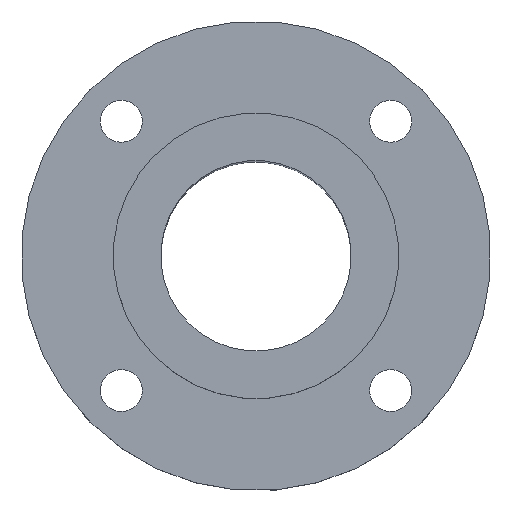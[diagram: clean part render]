
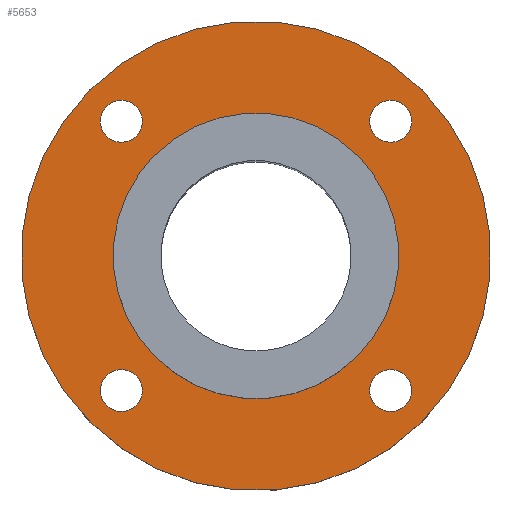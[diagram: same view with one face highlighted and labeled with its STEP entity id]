
A CAD part, top view. The second image highlights one B-rep face of the part: STEP entity #5653.
In plain terms, the highlighted planar face has unit normal (0, 0, 1).
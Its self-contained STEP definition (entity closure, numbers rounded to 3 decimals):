
#114=CIRCLE('',#6012,22.5);
#118=CIRCLE('',#6020,37.);
#119=CIRCLE('',#6022,3.3);
#120=CIRCLE('',#6023,3.3);
#121=CIRCLE('',#6024,3.3);
#122=CIRCLE('',#6025,3.3);
#523=ORIENTED_EDGE('',*,*,#2143,.F.);
#524=ORIENTED_EDGE('',*,*,#2144,.F.);
#525=ORIENTED_EDGE('',*,*,#2145,.F.);
#526=ORIENTED_EDGE('',*,*,#2146,.F.);
#527=ORIENTED_EDGE('',*,*,#2138,.T.);
#528=ORIENTED_EDGE('',*,*,#2142,.T.);
#2138=EDGE_CURVE('',#2951,#2951,#114,.F.);
#2142=EDGE_CURVE('',#2955,#2955,#118,.T.);
#2143=EDGE_CURVE('',#2956,#2956,#119,.T.);
#2144=EDGE_CURVE('',#2957,#2957,#120,.T.);
#2145=EDGE_CURVE('',#2958,#2958,#121,.T.);
#2146=EDGE_CURVE('',#2959,#2959,#122,.T.);
#2951=VERTEX_POINT('',#8974);
#2955=VERTEX_POINT('',#8986);
#2956=VERTEX_POINT('',#8989);
#2957=VERTEX_POINT('',#8991);
#2958=VERTEX_POINT('',#8993);
#2959=VERTEX_POINT('',#8995);
#4625=EDGE_LOOP('',(#523));
#4626=EDGE_LOOP('',(#524));
#4627=EDGE_LOOP('',(#525));
#4628=EDGE_LOOP('',(#526));
#4629=EDGE_LOOP('',(#527));
#4630=EDGE_LOOP('',(#528));
#5038=FACE_BOUND('',#4625,.T.);
#5039=FACE_BOUND('',#4626,.T.);
#5040=FACE_BOUND('',#4627,.T.);
#5041=FACE_BOUND('',#4628,.T.);
#5042=FACE_BOUND('',#4629,.T.);
#5043=FACE_BOUND('',#4630,.T.);
#5393=PLANE('',#6021);
#5653=ADVANCED_FACE('',(#5038,#5039,#5040,#5041,#5042,#5043),#5393,.T.);
#6012=AXIS2_PLACEMENT_3D('',#8973,#6529,#6530);
#6020=AXIS2_PLACEMENT_3D('',#8985,#6545,#6546);
#6021=AXIS2_PLACEMENT_3D('',#8987,#6547,#6548);
#6022=AXIS2_PLACEMENT_3D('',#8988,#6549,#6550);
#6023=AXIS2_PLACEMENT_3D('',#8990,#6551,#6552);
#6024=AXIS2_PLACEMENT_3D('',#8992,#6553,#6554);
#6025=AXIS2_PLACEMENT_3D('',#8994,#6555,#6556);
#6529=DIRECTION('',(0.,0.,1.));
#6530=DIRECTION('',(0.707,-0.707,0.));
#6545=DIRECTION('',(0.,0.,1.));
#6546=DIRECTION('',(0.707,-0.707,0.));
#6547=DIRECTION('',(0.,0.,1.));
#6548=DIRECTION('',(0.707,-0.707,0.));
#6549=DIRECTION('',(0.,0.,1.));
#6550=DIRECTION('',(0.707,-0.707,0.));
#6551=DIRECTION('',(0.,0.,1.));
#6552=DIRECTION('',(0.707,-0.707,0.));
#6553=DIRECTION('',(0.,0.,1.));
#6554=DIRECTION('',(0.707,-0.707,0.));
#6555=DIRECTION('',(0.,0.,1.));
#6556=DIRECTION('',(0.707,-0.707,0.));
#8973=CARTESIAN_POINT('',(0.,0.,0.));
#8974=CARTESIAN_POINT('',(15.91,-15.91,0.));
#8985=CARTESIAN_POINT('',(0.,0.,0.));
#8986=CARTESIAN_POINT('',(26.163,-26.163,0.));
#8987=CARTESIAN_POINT('',(0.,0.,0.));
#8988=CARTESIAN_POINT('',(21.213,21.213,0.));
#8989=CARTESIAN_POINT('',(23.547,18.88,0.));
#8990=CARTESIAN_POINT('',(-21.213,21.213,0.));
#8991=CARTESIAN_POINT('',(-18.88,18.88,0.));
#8992=CARTESIAN_POINT('',(-21.213,-21.213,0.));
#8993=CARTESIAN_POINT('',(-18.88,-23.547,0.));
#8994=CARTESIAN_POINT('',(21.213,-21.213,0.));
#8995=CARTESIAN_POINT('',(23.547,-23.547,0.));
